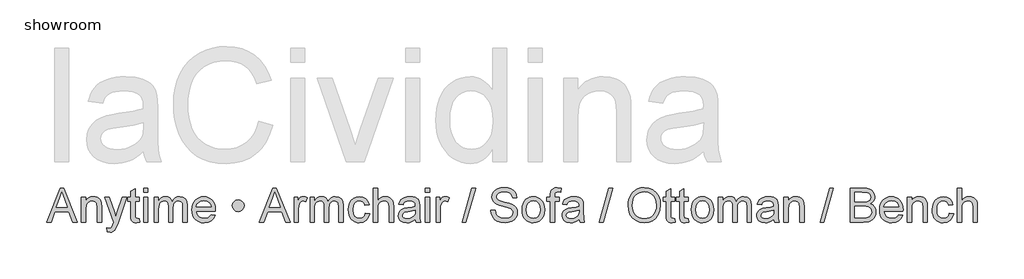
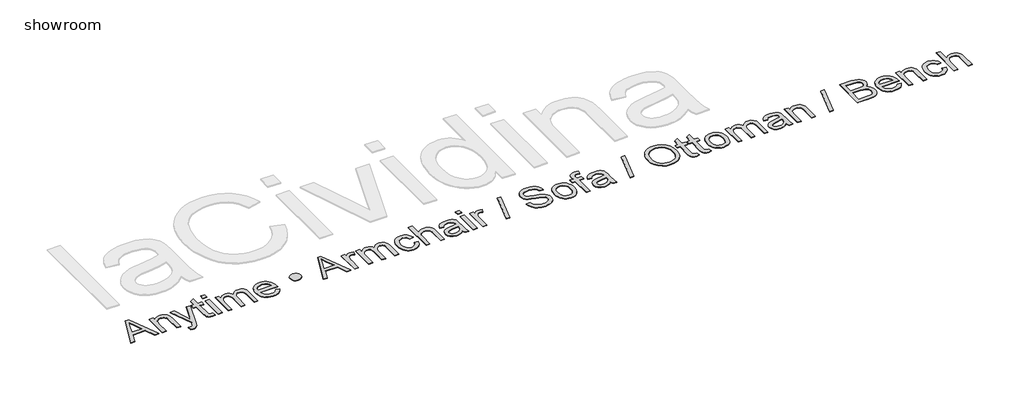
# One storey, part 2 of 2: 1 proxy.
"""IFC4 building model written with IfcOpenShell, lengths in millimetres."""

from ifc_helpers import new_model, si_unit, origin, origin_with_axes, place, context, project, spatial, polyline, outline, extrude, element, save

model = new_model("IFC4")

# Units and contexts
model_context = context("Model", 3, world=origin())
ifc_project = project(units=[si_unit("LENGTHUNIT", "METRE", prefix="MILLI")], contexts=[model_context])

# Site, building, storey
site = spatial("IfcSite", under=ifc_project)
building = spatial("IfcBuilding", under=site)
storey = spatial("IfcBuildingStorey", under=building, Name="showroom", Elevation=0.0)

# Proxy
placement = place(None, origin())
element("IfcBuildingElementProxy", 1, Name="300mm Arial", ObjectType="300mm Arial", at=placement, inside=storey, context=model_context, shape_type="SweptSolid", body=[
    extrude(outline(polyline([(-2025.45804, 4160.1020807), (-1905.1606276, 4461.4710111), (-1873.0813176, 4461.4710111), (-1752.7839051, 4160.1020807), (-1792.588737, 4160.1020807), (-1827.0960682, 4254.2798714), (-1951.2194533, 4254.2798714), (-1985.6532081, 4160.1020807), (-2025.45804, 4160.1020807)]), holes=[polyline([(-1937.3870903, 4291.9509877), (-1840.8548548, 4291.9509877), (-1868.004546, 4366.0424216), (-1889.1209726, 4423.7998948), (-1907.8829543, 4372.5171447), (-1937.3870903, 4291.9509877)])]), origin_with_axes(), (0.0, 0.0, 1.0), 5.0),
    extrude(outline(polyline([(-1717.2465044, 4160.1020807), (-1717.2465044, 4381.419889), (-1679.5753881, 4381.419889), (-1679.5753881, 4350.5178014), (-1666.4879861, 4366.0976039), (-1650.7702279, 4377.2260342), (-1632.4221134, 4383.9030924), (-1611.4436426, 4386.1287785), (-1592.8747989, 4384.3353538), (-1575.8694537, 4378.9550796), (-1561.6876028, 4370.6593406), (-1551.589242, 4360.1195214), (-1540.2952647, 4332.4180072), (-1538.308702, 4295.9976897), (-1538.308702, 4160.1020807), (-1575.9798183, 4160.1020807), (-1575.9798183, 4290.9209182), (-1580.3208258, 4324.2510269), (-1586.3264994, 4334.1746437), (-1595.661505, 4341.8725745), (-1607.6268669, 4346.8113903), (-1621.5236093, 4348.4576622), (-1643.5873319, 4344.7604482), (-1662.3952989, 4333.668806), (-1669.9115879, 4324.6143104), (-1675.2803658, 4312.2396798), (-1679.5753881, 4277.5300135), (-1679.5753881, 4160.1020807), (-1717.2465044, 4160.1020807)])), origin_with_axes(), (0.0, 0.0, 1.0), 5.0),
    extrude(outline(polyline([(-1486.510917, 4075.342069), (-1491.2198066, 4111.6152337), (-1472.0899428, 4108.3042958), (-1454.2108779, 4112.4613623), (-1443.2479944, 4124.0496451), (-1432.9472985, 4151.7879476), (-1430.0042426, 4160.9114211), (-1510.0553647, 4381.419889), (-1470.3241093, 4381.419889), (-1427.870527, 4258.5473026), (-1413.0816708, 4209.398268), (-1398.2928146, 4252.8083435), (-1354.66201, 4381.419889), (-1315.2250601, 4381.419889), (-1392.2595499, 4154.8045799), (-1412.2723304, 4105.6555454), (-1422.517844, 4089.9653783), (-1434.1245209, 4079.0944653), (-1447.6073961, 4072.7485009), (-1463.4815041, 4070.6331794), (-1486.510917, 4075.342069)])), origin_with_axes(), (0.0, 0.0, 1.0), 5.0),
    extrude(outline(polyline([(-1203.9775447, 4191.5192031), (-1199.2686552, 4158.9984347), (-1227.448416, 4155.3931911), (-1245.5298161, 4156.9566896), (-1259.0126912, 4161.6471851), (-1268.5408349, 4168.8760663), (-1274.7580406, 4178.054722), (-1278.1793432, 4193.8184655), (-1279.3197774, 4220.8026099), (-1279.3197774, 4343.7487727), (-1307.5731146, 4343.7487727), (-1307.5731146, 4381.419889), (-1279.3197774, 4381.419889), (-1279.3197774, 4435.2042367), (-1241.6486611, 4457.3507328), (-1241.6486611, 4381.419889), (-1203.9775447, 4381.419889), (-1203.9775447, 4343.7487727), (-1241.6486611, 4343.7487727), (-1241.6486611, 4221.9062559), (-1239.6620983, 4202.4820865), (-1233.2241634, 4195.6026932), (-1220.3850817, 4193.0643074), (-1203.9775447, 4191.5192031)])), origin_with_axes(), (0.0, 0.0, 1.0), 5.0),
    extrude(outline(polyline([(-1166.3064284, 4423.7998948), (-1166.3064284, 4461.4710111), (-1128.6353121, 4461.4710111), (-1128.6353121, 4423.7998948), (-1166.3064284, 4423.7998948)])), origin_with_axes(), (0.0, 0.0, 1.0), 5.0),
    extrude(outline(polyline([(-1166.3064284, 4160.1020807), (-1166.3064284, 4381.419889), (-1128.6353121, 4381.419889), (-1128.6353121, 4160.1020807), (-1166.3064284, 4160.1020807)])), origin_with_axes(), (0.0, 0.0, 1.0), 5.0),
    extrude(outline(polyline([(-1072.1286377, 4160.1020807), (-1072.1286377, 4381.419889), (-1034.4575214, 4381.419889), (-1034.4575214, 4344.9995714), (-1023.1267559, 4361.7290052), (-1008.5586289, 4374.8348013), (-991.249781, 4383.3052842), (-971.696853, 4386.1287785), (-950.7459734, 4383.2501019), (-933.9521603, 4374.6140721), (-921.4073842, 4360.7909061), (-913.2036158, 4342.3508211), (-899.4724203, 4361.5036775), (-883.8098443, 4375.1842892), (-866.2158879, 4383.3926562), (-846.690551, 4386.1287785), (-818.3728345, 4381.5762388), (-797.4311519, 4367.9186197), (-784.4909027, 4344.7880393), (-780.1774863, 4311.8166155), (-780.1774863, 4160.1020807), (-817.8486026, 4160.1020807), (-817.8486026, 4295.6298077), (-821.3434816, 4327.0837183), (-826.2547062, 4335.7565363), (-833.9986222, 4342.5715503), (-843.9590272, 4346.9861342), (-855.5197189, 4348.4576622), (-875.9279726, 4344.6868718), (-892.5654358, 4333.3745004), (-903.6294868, 4313.747996), (-907.3175038, 4285.0348062), (-907.3175038, 4160.1020807), (-944.9886201, 4160.1020807), (-944.9886201, 4299.8236624), (-947.168321, 4321.12403), (-953.7074234, 4336.3175564), (-965.2129328, 4345.4226357), (-982.2918545, 4348.4576622), (-996.8047992, 4346.4343112), (-1010.1773097, 4340.3642583), (-1021.2137695, 4330.3946562), (-1028.7185622, 4316.6726578), (-1033.0227816, 4297.6347646), (-1034.4575214, 4271.717478), (-1034.4575214, 4160.1020807), (-1072.1286377, 4160.1020807)])), origin_with_axes(), (0.0, 0.0, 1.0), 5.0),
    extrude(outline(polyline([(-568.7189155, 4226.0265342), (-531.7835632, 4221.3176447), (-545.0916943, 4193.4873717), (-566.3276825, 4172.6836449), (-595.0132811, 4159.7158046), (-630.6702435, 4155.3931911), (-654.0445457, 4157.257893), (-674.8712652, 4162.8519986), (-693.1504018, 4172.1755079), (-708.8819556, 4185.2284209), (-721.5324977, 4201.6474542), (-730.5685993, 4221.0693243), (-735.9902602, 4243.4940312), (-737.7974805, 4268.9215748), (-735.9718661, 4295.2113419), (-730.4950229, 4318.3833091), (-721.3669508, 4338.4374764), (-708.58765, 4355.3738437), (-692.8974829, 4368.8291277), (-675.0368121, 4378.4400448), (-655.0056374, 4384.2065951), (-632.803959, 4386.1287785), (-611.3173513, 4384.2111936), (-591.8862841, 4378.4584389), (-574.5107576, 4368.8705144), (-559.1907718, 4355.4474201), (-546.6850832, 4338.547841), (-537.7524485, 4318.5304619), (-532.3928677, 4295.3952829), (-530.6063408, 4269.142304), (-530.82707, 4258.988761), (-700.1263642, 4258.988761), (-693.6056558, 4230.790606), (-678.4581146, 4210.0604556), (-656.5967271, 4197.3133445), (-629.9344795, 4193.0643074), (-609.8849107, 4195.0324761), (-592.9991272, 4200.9369821), (-579.2771287, 4211.1457075), (-568.7189155, 4226.0265342)]), holes=[polyline([(-700.1263642, 4296.6598773), (-568.2774571, 4296.6598773), (-573.3726227, 4316.5622932), (-583.3606189, 4330.7993264), (-605.323174, 4344.0430783), (-632.9511118, 4348.4576622), (-658.3441665, 4344.9351921), (-679.3410314, 4334.3677818), (-693.9367496, 4317.8958655), (-700.1263642, 4296.6598773)])]), origin_with_axes(), (0.0, 0.0, 1.0), 5.0),
    extrude(outline(polyline([(-379.9218755, 4306.1512328), (-376.1142969, 4326.0444516), (-364.6915609, 4342.7554913), (-347.9529302, 4354.0954538), (-328.197667, 4357.8754413), (-308.3320393, 4354.0954538), (-291.5566203, 4342.7554913), (-280.1338844, 4326.0444516), (-276.3263057, 4306.1512328), (-280.1338844, 4286.285605), (-291.5566203, 4269.510186), (-308.3320393, 4258.0874501), (-328.197667, 4254.2798714), (-347.9529302, 4258.0874501), (-364.6915609, 4269.510186), (-376.1142969, 4286.285605), (-379.9218755, 4306.1512328)])), origin_with_axes(), (0.0, 0.0, 1.0), 5.0),
    extrude(outline(polyline([(-141.9022247, 4160.1020807), (-21.6048122, 4461.4710111), (10.4744977, 4461.4710111), (130.7719102, 4160.1020807), (90.9670783, 4160.1020807), (56.4597471, 4254.2798714), (-67.663638, 4254.2798714), (-102.0973928, 4160.1020807), (-141.9022247, 4160.1020807)]), holes=[polyline([(-53.831275, 4291.9509877), (42.7009605, 4291.9509877), (15.5512693, 4366.0424216), (-5.5651573, 4423.7998948), (-24.327139, 4372.5171447), (-53.831275, 4291.9509877)])]), origin_with_axes(), (0.0, 0.0, 1.0), 5.0),
    extrude(outline(polyline([(166.3093109, 4160.1020807), (166.3093109, 4381.419889), (199.2715377, 4381.419889), (199.2715377, 4348.6783914), (211.4484317, 4367.6611024), (222.6688326, 4378.844715), (233.9260216, 4384.3077626), (246.2132802, 4386.1287785), (264.975262, 4383.2225107), (284.0315493, 4374.5037075), (271.4499851, 4340.7321403), (258.2062333, 4346.5262817), (244.9624815, 4348.4576622), (233.7144895, 4346.5998581), (223.6621139, 4341.0264459), (215.5411189, 4332.1604898), (210.0872683, 4320.4250542), (205.5071375, 4299.382204), (203.9804272, 4276.4263675), (203.9804272, 4160.1020807), (166.3093109, 4160.1020807)])), origin_with_axes(), (0.0, 0.0, 1.0), 5.0),
    extrude(outline(polyline([(307.575997, 4160.1020807), (307.575997, 4381.419889), (345.2471133, 4381.419889), (345.2471133, 4344.9995714), (356.5778788, 4361.7290052), (371.1460058, 4374.8348013), (388.4548537, 4383.3052842), (408.0077817, 4386.1287785), (428.9586613, 4383.2501019), (445.7524744, 4374.6140721), (458.2972505, 4360.7909061), (466.501019, 4342.3508211), (480.2322144, 4361.5036775), (495.8947904, 4375.1842892), (513.4887468, 4383.3926562), (533.0140837, 4386.1287785), (561.3318003, 4381.5762388), (582.2734828, 4367.9186197), (595.213732, 4344.7880393), (599.5271484, 4311.8166155), (599.5271484, 4160.1020807), (561.8560321, 4160.1020807), (561.8560321, 4295.6298077), (558.3611531, 4327.0837183), (553.4499285, 4335.7565363), (545.7060125, 4342.5715503), (535.7456075, 4346.9861342), (524.1849158, 4348.4576622), (503.7766621, 4344.6868718), (487.1391989, 4333.3745004), (476.0751479, 4313.747996), (472.3871309, 4285.0348062), (472.3871309, 4160.1020807), (434.7160146, 4160.1020807), (434.7160146, 4299.8236624), (432.5363137, 4321.12403), (425.9972113, 4336.3175564), (414.4917019, 4345.4226357), (397.4127803, 4348.4576622), (382.8998355, 4346.4343112), (369.527325, 4340.3642583), (358.4908652, 4330.3946562), (350.9860725, 4316.6726578), (346.6818531, 4297.6347646), (345.2471133, 4271.717478), (345.2471133, 4160.1020807), (307.575997, 4160.1020807)])), origin_with_axes(), (0.0, 0.0, 1.0), 5.0),
    extrude(outline(polyline([(797.300509, 4240.1532028), (834.9716253, 4235.4443133), (824.4685944, 4201.9394606), (804.7317253, 4176.6199823), (777.6188223, 4160.6998889), (744.9876893, 4155.3931911), (723.8597665, 4157.2440974), (704.916143, 4162.7968163), (688.1568188, 4172.0513477), (673.581794, 4185.0076917), (661.7842783, 4201.4221265), (653.3574814, 4221.0509302), (648.3014032, 4243.8941029), (646.6160438, 4269.9516444), (649.4947204, 4303.4748912), (658.1307502, 4332.5283718), (672.6620891, 4355.9900461), (693.2266926, 4372.7378739), (717.828801, 4382.7810524), (744.4726545, 4386.1287785), (776.3036441, 4381.5302536), (801.7518812, 4367.7346787), (820.0080252, 4345.477818), (830.2627358, 4315.4954354), (792.5916195, 4310.7865459), (785.7582114, 4327.221674), (775.1172247, 4339.0030949), (761.2572705, 4346.0940204), (744.7669601, 4348.4576622), (720.4223691, 4343.803955), (701.0993673, 4329.8428332), (688.4902119, 4305.820139), (684.2871601, 4270.981714), (688.3982414, 4235.6742395), (700.7314853, 4211.5687718), (719.7049992, 4197.6904235), (743.7368905, 4193.0643074), (763.2438333, 4195.9521811), (779.2375031, 4204.6158021), (790.8717712, 4219.2758996), (797.300509, 4240.1532028)])), origin_with_axes(), (0.0, 0.0, 1.0), 5.0),
    extrude(outline(polyline([(867.9338521, 4160.1020807), (867.9338521, 4461.4710111), (905.6049684, 4461.4710111), (905.6049684, 4350.6649542), (919.4419299, 4366.1803773), (934.9803457, 4377.2628224), (952.2202157, 4383.9122895), (971.1615399, 4386.1287785), (993.9150413, 4383.7099544), (1013.4679694, 4376.453482), (1028.8638309, 4364.9295785), (1039.1461326, 4349.708461), (1044.9402741, 4328.7943696), (1046.8716545, 4300.1915444), (1046.8716545, 4160.1020807), (1009.2005382, 4160.1020807), (1009.2005382, 4296.2919953), (1006.2023, 4319.8732312), (997.2075852, 4336.0232508), (982.7130346, 4345.3490593), (963.2152888, 4348.4576622), (947.2951955, 4346.3607348), (932.3499894, 4340.0699527), (919.9707603, 4330.1923211), (911.7485977, 4317.3348454), (907.1408757, 4300.2467267), (905.6049684, 4277.6771663), (905.6049684, 4160.1020807), (867.9338521, 4160.1020807)])), origin_with_axes(), (0.0, 0.0, 1.0), 5.0),
    extrude(outline(polyline([(1239.9361256, 4188.3554179), (1221.937499, 4172.9227682), (1203.4054435, 4162.8244074), (1183.9168948, 4157.2509952), (1163.0487886, 4155.3931911), (1131.5672869, 4159.8629574), (1108.3447359, 4173.2722561), (1094.0249293, 4193.6345245), (1089.2516604, 4218.9631999), (1091.0542822, 4234.5797906), (1096.4621475, 4248.7616415), (1104.8038717, 4260.9017474), (1115.4080702, 4270.3931028), (1141.7852093, 4282.7539379), (1174.3795541, 4288.4193206), (1212.896799, 4294.3790089), (1239.7153964, 4301.3687668), (1239.9361256, 4309.7564763), (1237.3425575, 4326.5686835), (1229.5618533, 4337.5683551), (1212.161035, 4345.7353354), (1187.9176115, 4348.4576622), (1165.4768098, 4346.6458434), (1149.8050368, 4341.2103869), (1139.1180648, 4331.1580114), (1131.6316662, 4315.4954354), (1093.9605499, 4320.204325), (1100.4996524, 4340.8057167), (1110.2577223, 4356.9925245), (1124.1452676, 4369.3717536), (1143.0727963, 4378.5504094), (1166.2217708, 4384.2341862), (1192.7736538, 4386.1287785), (1218.2402849, 4384.4549154), (1238.4278094, 4379.4333262), (1253.648927, 4371.8825482), (1264.2163373, 4362.621119), (1271.2244893, 4351.1707919), (1275.7678319, 4337.0533204), (1277.6072419, 4304.0910936), (1277.6072419, 4257.2229274), (1279.5202283, 4191.7767205), (1287.025021, 4160.1020807), (1249.3539047, 4160.1020807), (1239.9361256, 4188.3554179)]), holes=[polyline([(1239.9361256, 4263.6976505), (1179.16202, 4252.1461559), (1146.7516162, 4246.0393147), (1132.0731246, 4236.1065009), (1126.9227767, 4221.6119503), (1129.7278769, 4210.4099435), (1138.1431775, 4201.2312877), (1151.9847376, 4195.1060525), (1171.0686161, 4193.0643074), (1191.3021259, 4195.3175847), (1209.1811908, 4202.0774163), (1223.6757414, 4212.0378213), (1233.7557081, 4223.8928186), (1238.2254743, 4236.1065009), (1239.7153964, 4253.0290727), (1239.9361256, 4263.6976505)])]), origin_with_axes(), (0.0, 0.0, 1.0), 5.0),
    extrude(outline(polyline([(1329.4050268, 4160.1020807), (1329.4050268, 4381.419889), (1367.0761431, 4381.419889), (1367.0761431, 4160.1020807), (1329.4050268, 4160.1020807)])), origin_with_axes(), (0.0, 0.0, 1.0), 5.0),
    extrude(outline(polyline([(1329.4050268, 4423.7998948), (1329.4050268, 4461.4710111), (1367.0761431, 4461.4710111), (1367.0761431, 4423.7998948), (1329.4050268, 4423.7998948)])), origin_with_axes(), (0.0, 0.0, 1.0), 5.0),
    extrude(outline(polyline([(1423.5828176, 4160.1020807), (1423.5828176, 4381.419889), (1456.5450444, 4381.419889), (1456.5450444, 4348.6783914), (1468.7219384, 4367.6611024), (1479.9423393, 4378.844715), (1491.1995283, 4384.3077626), (1503.486787, 4386.1287785), (1522.2487687, 4383.2225107), (1541.3050561, 4374.5037075), (1528.7234918, 4340.7321403), (1515.47974, 4346.5262817), (1502.2359882, 4348.4576622), (1490.9879962, 4346.5998581), (1480.9356207, 4341.0264459), (1472.8146256, 4332.1604898), (1467.360775, 4320.4250542), (1462.7806442, 4299.382204), (1461.2539339, 4276.4263675), (1461.2539339, 4160.1020807), (1423.5828176, 4160.1020807)])), origin_with_axes(), (0.0, 0.0, 1.0), 5.0),
    extrude(outline(polyline([(1654.318405, 4160.1020807), (1739.0784167, 4461.4710111), (1773.070713, 4461.4710111), (1688.3107013, 4160.1020807), (1654.318405, 4160.1020807)])), origin_with_axes(), (0.0, 0.0, 1.0), 5.0),
    extrude(outline(polyline([(1908.59844, 4263.6976505), (1946.2695564, 4263.6976505), (1950.5921698, 4242.7927561), (1958.4096622, 4225.989746), (1970.6049503, 4212.6540237), (1988.060951, 4202.1509927), (2009.3981067, 4195.3359788), (2033.23686, 4193.0643074), (2054.2245278, 4194.7841558), (2072.6002335, 4199.9437007), (2087.4902573, 4208.110681), (2098.0208794, 4218.8528353), (2104.2840703, 4231.1860792), (2106.3718007, 4244.1263284), (2104.8083022, 4256.7354838), (2100.1178067, 4267.6339879), (2090.5896631, 4276.9322053), (2074.5132199, 4284.7405006), (2019.6620144, 4299.1246866), (1983.6555641, 4308.6436333), (1960.6169542, 4317.7027274), (1941.8641695, 4330.3762621), (1928.5744324, 4345.7353354), (1920.6557724, 4363.4488535), (1918.0162191, 4383.1857225), (1921.2811718, 4405.2494452), (1931.07603, 4425.8232458), (1947.1432761, 4443.2608524), (1969.2253929, 4455.915993), (1995.7312906, 4463.6139237), (2025.0698797, 4466.1799007), (2056.8548841, 4463.4943621), (2084.6667629, 4455.4377464), (2107.5122348, 4442.1756005), (2124.3980184, 4423.8734712), (2135.0849904, 4401.6717928), (2139.3340274, 4376.7109994), (2101.6629111, 4376.7109994), (2094.7467296, 4399.1885893), (2080.3257554, 4415.4121853), (2057.7929832, 4425.2346346), (2026.5414077, 4428.5087844), (1994.5540682, 4425.2714228), (1972.6099072, 4415.5593381), (1959.9179784, 4401.2671226), (1955.6873354, 4384.2893685), (1958.6855737, 4369.813212), (1967.6802885, 4358.1697469), (1988.9438678, 4347.7586864), (2029.1901581, 4337.1268968), (2070.7240353, 4327.028536), (2095.8503756, 4318.2177622), (2117.3254871, 4304.5509461), (2132.3074813, 4287.6835566), (2141.109058, 4267.7995348), (2144.042917, 4245.0828216), (2140.6675997, 4221.8602706), (2130.5416477, 4200.0172771), (2114.0789285, 4181.2185072), (2091.693309, 4167.1286268), (2064.773544, 4158.32705), (2034.708388, 4155.3931911), (1997.8006268, 4158.5569763), (1967.4227711, 4168.0483318), (1943.2253328, 4183.9040458), (1924.8588242, 4206.1609065), (1913.0682063, 4233.2738095), (1908.59844, 4263.6976505)])), origin_with_axes(), (0.0, 0.0, 1.0), 5.0),
    extrude(outline(polyline([(2186.4229228, 4270.7609848), (2188.4600694, 4299.4235908), (2194.571509, 4324.1222682), (2204.7572417, 4344.8570172), (2219.0172676, 4361.6278376), (2233.3738624, 4372.3469993), (2249.2203794, 4380.0035433), (2266.5568184, 4384.5974697), (2285.3831795, 4386.1287785), (2306.166213, 4384.2640766), (2324.9580851, 4378.6699711), (2341.758796, 4369.3464617), (2356.5683456, 4356.2935487), (2368.6555684, 4339.9526903), (2377.289299, 4320.765345), (2382.4695373, 4298.7315128), (2384.1962834, 4273.8511936), (2381.1428629, 4235.7938012), (2371.9826012, 4206.8230941), (2356.9822128, 4185.1272534), (2336.4084122, 4168.8944604), (2311.9718507, 4158.7685084), (2285.3831795, 4155.3931911), (2264.2966434, 4157.2509952), (2245.3300273, 4162.8244074), (2228.4833312, 4172.1134278), (2213.756555, 4185.1180563), (2201.7980909, 4201.6175638), (2193.2563309, 4221.3912211), (2188.1312748, 4244.4390281), (2186.4229228, 4270.7609848)]), holes=[polyline([(2224.0940391, 4270.8345612), (2228.4534408, 4236.7410973), (2241.5316457, 4212.4516886), (2261.2133324, 4197.9111527), (2285.3831795, 4193.0643074), (2309.442662, 4197.9387439), (2329.0875605, 4212.5620532), (2342.1657655, 4237.1733587), (2346.5251671, 4272.0117836), (2342.1381743, 4305.1119661), (2328.9771959, 4329.0702811), (2309.3047062, 4343.6108169), (2285.3831795, 4348.4576622), (2261.2133324, 4343.629211), (2241.5316457, 4329.1438575), (2228.4534408, 4304.909631), (2224.0940391, 4270.8345612)])]), origin_with_axes(), (0.0, 0.0, 1.0), 5.0),
    extrude(outline(polyline([(2435.9940683, 4160.1020807), (2435.9940683, 4343.7487727), (2403.0318416, 4343.7487727), (2403.0318416, 4381.419889), (2435.9940683, 4381.419889), (2435.9940683, 4403.7135379), (2439.9671939, 4435.1306603), (2447.545563, 4447.6570422), (2459.2442104, 4457.571462), (2475.6149592, 4464.027791), (2497.2096323, 4466.1799007), (2531.5698107, 4462.0596223), (2526.0515808, 4426.7429508), (2504.346543, 4428.5087844), (2490.0267364, 4426.9452859), (2480.6181543, 4422.2547904), (2475.4034271, 4413.2968639), (2473.6651846, 4398.9310719), (2473.6651846, 4381.419889), (2516.0451905, 4381.419889), (2516.0451905, 4343.7487727), (2473.6651846, 4343.7487727), (2473.6651846, 4160.1020807), (2435.9940683, 4160.1020807)])), origin_with_axes(), (0.0, 0.0, 1.0), 5.0),
    extrude(outline(polyline([(2690.2741034, 4188.3554179), (2672.2754768, 4172.9227682), (2653.7434213, 4162.8244074), (2634.2548726, 4157.2509952), (2613.3867664, 4155.3931911), (2581.9052647, 4159.8629574), (2558.6827137, 4173.2722561), (2544.3629071, 4193.6345245), (2539.5896382, 4218.9631999), (2541.39226, 4234.5797906), (2546.8001253, 4248.7616415), (2555.1418495, 4260.9017474), (2565.746048, 4270.3931028), (2592.1231871, 4282.7539379), (2624.7175319, 4288.4193206), (2663.2347768, 4294.3790089), (2690.0533742, 4301.3687668), (2690.2741034, 4309.7564763), (2687.6805353, 4326.5686835), (2679.8998311, 4337.5683551), (2662.4990128, 4345.7353354), (2638.2555893, 4348.4576622), (2615.8147876, 4346.6458434), (2600.1430146, 4341.2103869), (2589.4560426, 4331.1580114), (2581.969644, 4315.4954354), (2544.2985277, 4320.204325), (2550.8376302, 4340.8057167), (2560.5957001, 4356.9925245), (2574.4832454, 4369.3717536), (2593.4107741, 4378.5504094), (2616.5597486, 4384.2341862), (2643.1116316, 4386.1287785), (2668.5782627, 4384.4549154), (2688.7657872, 4379.4333262), (2703.9869048, 4371.8825482), (2714.5543151, 4362.621119), (2721.5624671, 4351.1707919), (2726.1058097, 4337.0533204), (2727.9452197, 4304.0910936), (2727.9452197, 4257.2229274), (2729.8582061, 4191.7767205), (2737.3629988, 4160.1020807), (2699.6918825, 4160.1020807), (2690.2741034, 4188.3554179)]), holes=[polyline([(2690.2741034, 4263.6976505), (2629.4999978, 4252.1461559), (2597.089594, 4246.0393147), (2582.4111024, 4236.1065009), (2577.2607545, 4221.6119503), (2580.0658547, 4210.4099435), (2588.4811553, 4201.2312877), (2602.3227154, 4195.1060525), (2621.4065939, 4193.0643074), (2641.6401036, 4195.3175847), (2659.5191686, 4202.0774163), (2674.0137192, 4212.0378213), (2684.0936859, 4223.8928186), (2688.5634521, 4236.1065009), (2690.0533742, 4253.0290727), (2690.2741034, 4263.6976505)])]), origin_with_axes(), (0.0, 0.0, 1.0), 5.0),
    extrude(outline(polyline([(2869.2119059, 4160.1020807), (2953.9719175, 4461.4710111), (2987.9642139, 4461.4710111), (2903.2042022, 4160.1020807), (2869.2119059, 4160.1020807)])), origin_with_axes(), (0.0, 0.0, 1.0), 5.0),
    extrude(outline(polyline([(3123.4919409, 4306.8134203), (3126.0027355, 4342.1622816), (3133.5351194, 4373.4552438), (3146.0890925, 4400.692307), (3163.6646548, 4423.8734712), (3185.2087441, 4442.3825341), (3209.6682983, 4455.6032933), (3237.0433173, 4463.5357488), (3267.333801, 4466.1799007), (3306.8627214, 4461.2134937), (3342.3081516, 4446.3142729), (3371.7387113, 4422.5307019), (3393.2230198, 4390.9112444), (3406.356407, 4352.9826107), (3410.7342028, 4310.2715111), (3406.1264808, 4266.9901944), (3392.3033148, 4228.5281318), (3370.02806, 4196.853492), (3340.0640715, 4173.9344437), (3304.9221439, 4160.0285043), (3267.1130718, 4155.3931911), (3226.9771462, 4160.5159479), (3191.3293808, 4175.8842183), (3161.9723976, 4200.1092476), (3140.7088183, 4231.8022815), (3127.7961603, 4268.2685843), (3123.4919409, 4306.8134203)]), holes=[polyline([(3161.1630572, 4306.4455384), (3163.0461532, 4281.4709494), (3168.6954411, 4259.3014607), (3178.1109209, 4239.9370721), (3191.2925926, 4223.3777838), (3207.3161528, 4210.1156379), (3225.2572978, 4200.6426765), (3245.1160278, 4194.9588997), (3266.8923426, 4193.0643074), (3289.041138, 4194.9772938), (3309.1343927, 4200.7162529), (3327.1721068, 4210.2811848), (3343.1542802, 4223.6720894), (3356.239383, 4240.5808656), (3365.5858849, 4260.6994123), (3371.1937861, 4284.0277293), (3373.0630864, 4310.5658167), (3369.8625131, 4343.9143196), (3360.260793, 4372.7378739), (3344.5062466, 4396.3099127), (3322.8471941, 4413.9038691), (3296.7183754, 4424.8575556), (3267.5545302, 4428.5087844), (3246.5346727, 4426.7498486), (3227.0323285, 4421.4730412), (3209.0474974, 4412.6783622), (3192.5801796, 4400.3658117), (3178.8351886, 4383.9421799), (3169.0173378, 4362.8142571), (3163.1266274, 4336.9820432), (3161.1630572, 4306.4455384)])]), origin_with_axes(), (0.0, 0.0, 1.0), 5.0),
    extrude(outline(polyline([(3537.8742203, 4191.5192031), (3542.5831098, 4158.9984347), (3514.403349, 4155.3931911), (3496.3219489, 4156.9566896), (3482.8390738, 4161.6471851), (3473.3109301, 4168.8760663), (3467.0937244, 4178.054722), (3463.6724219, 4193.8184655), (3462.5319877, 4220.8026099), (3462.5319877, 4343.7487727), (3434.2786504, 4343.7487727), (3434.2786504, 4381.419889), (3462.5319877, 4381.419889), (3462.5319877, 4435.2042367), (3500.203104, 4457.3507328), (3500.203104, 4381.419889), (3537.8742203, 4381.419889), (3537.8742203, 4343.7487727), (3500.203104, 4343.7487727), (3500.203104, 4221.9062559), (3502.1896668, 4202.4820865), (3508.6276017, 4195.6026932), (3521.4666833, 4193.0643074), (3537.8742203, 4191.5192031)])), origin_with_axes(), (0.0, 0.0, 1.0), 5.0),
    extrude(outline(polyline([(3655.5964587, 4191.5192031), (3660.3053483, 4158.9984347), (3632.1255875, 4155.3931911), (3614.0441874, 4156.9566896), (3600.5613123, 4161.6471851), (3591.0331686, 4168.8760663), (3584.8159629, 4178.054722), (3581.3946603, 4193.8184655), (3580.2542261, 4220.8026099), (3580.2542261, 4343.7487727), (3552.0008889, 4343.7487727), (3552.0008889, 4381.419889), (3580.2542261, 4381.419889), (3580.2542261, 4435.2042367), (3617.9253424, 4457.3507328), (3617.9253424, 4381.419889), (3655.5964587, 4381.419889), (3655.5964587, 4343.7487727), (3617.9253424, 4343.7487727), (3617.9253424, 4221.9062559), (3619.9119052, 4202.4820865), (3626.3498401, 4195.6026932), (3639.1889218, 4193.0643074), (3655.5964587, 4191.5192031)])), origin_with_axes(), (0.0, 0.0, 1.0), 5.0),
    extrude(outline(polyline([(3683.849796, 4270.7609848), (3685.8869425, 4299.4235908), (3691.9983822, 4324.1222682), (3702.1841149, 4344.8570172), (3716.4441407, 4361.6278376), (3730.8007356, 4372.3469993), (3746.6472525, 4380.0035433), (3763.9836916, 4384.5974697), (3782.8100527, 4386.1287785), (3803.5930861, 4384.2640766), (3822.3849583, 4378.6699711), (3839.1856692, 4369.3464617), (3853.9952187, 4356.2935487), (3866.0824415, 4339.9526903), (3874.7161721, 4320.765345), (3879.8964105, 4298.7315128), (3881.6231566, 4273.8511936), (3878.569736, 4235.7938012), (3869.4094743, 4206.8230941), (3854.409086, 4185.1272534), (3833.8352854, 4168.8944604), (3809.3987239, 4158.7685084), (3782.8100527, 4155.3931911), (3761.7235166, 4157.2509952), (3742.7569004, 4162.8244074), (3725.9102043, 4172.1134278), (3711.1834282, 4185.1180563), (3699.2249641, 4201.6175638), (3690.683204, 4221.3912211), (3685.558148, 4244.4390281), (3683.849796, 4270.7609848)]), holes=[polyline([(3721.5209123, 4270.8345612), (3725.8803139, 4236.7410973), (3738.9585188, 4212.4516886), (3758.6402056, 4197.9111527), (3782.8100527, 4193.0643074), (3806.8695352, 4197.9387439), (3826.5144337, 4212.5620532), (3839.5926386, 4237.1733587), (3843.9520403, 4272.0117836), (3839.5650475, 4305.1119661), (3826.4040691, 4329.0702811), (3806.7315794, 4343.6108169), (3782.8100527, 4348.4576622), (3758.6402056, 4343.629211), (3738.9585188, 4329.1438575), (3725.8803139, 4304.909631), (3721.5209123, 4270.8345612)])]), origin_with_axes(), (0.0, 0.0, 1.0), 5.0),
    extrude(outline(polyline([(3924.0031624, 4160.1020807), (3924.0031624, 4381.419889), (3961.6742787, 4381.419889), (3961.6742787, 4344.9995714), (3973.0050442, 4361.7290052), (3987.5731712, 4374.8348013), (4004.8820191, 4383.3052842), (4024.4349471, 4386.1287785), (4045.3858267, 4383.2501019), (4062.1796398, 4374.6140721), (4074.7244158, 4360.7909061), (4082.9281843, 4342.3508211), (4096.6593798, 4361.5036775), (4112.3219558, 4375.1842892), (4129.9159122, 4383.3926562), (4149.4412491, 4386.1287785), (4177.7589656, 4381.5762388), (4198.7006482, 4367.9186197), (4211.6408974, 4344.7880393), (4215.9543138, 4311.8166155), (4215.9543138, 4160.1020807), (4178.2831975, 4160.1020807), (4178.2831975, 4295.6298077), (4174.7883185, 4327.0837183), (4169.8770939, 4335.7565363), (4162.1331779, 4342.5715503), (4152.1727729, 4346.9861342), (4140.6120812, 4348.4576622), (4120.2038275, 4344.6868718), (4103.5663643, 4333.3745004), (4092.5023133, 4313.747996), (4088.8142963, 4285.0348062), (4088.8142963, 4160.1020807), (4051.14318, 4160.1020807), (4051.14318, 4299.8236624), (4048.9634791, 4321.12403), (4042.4243767, 4336.3175564), (4030.9188673, 4345.4226357), (4013.8399456, 4348.4576622), (3999.3270009, 4346.4343112), (3985.9544904, 4340.3642583), (3974.9180306, 4330.3946562), (3967.4132379, 4316.6726578), (3963.1090185, 4297.6347646), (3961.6742787, 4271.717478), (3961.6742787, 4160.1020807), (3924.0031624, 4160.1020807)])), origin_with_axes(), (0.0, 0.0, 1.0), 5.0),
    extrude(outline(polyline([(4413.7276744, 4188.3554179), (4395.7290478, 4172.9227682), (4377.1969923, 4162.8244074), (4357.7084436, 4157.2509952), (4336.8403374, 4155.3931911), (4305.3588357, 4159.8629574), (4282.1362847, 4173.2722561), (4267.8164781, 4193.6345245), (4263.0432092, 4218.9631999), (4264.845831, 4234.5797906), (4270.2536963, 4248.7616415), (4278.5954205, 4260.9017474), (4289.199619, 4270.3931028), (4315.5767581, 4282.7539379), (4348.1711029, 4288.4193206), (4386.6883478, 4294.3790089), (4413.5069452, 4301.3687668), (4413.7276744, 4309.7564763), (4411.1341063, 4326.5686835), (4403.3534021, 4337.5683551), (4385.9525838, 4345.7353354), (4361.7091603, 4348.4576622), (4339.2683586, 4346.6458434), (4323.5965856, 4341.2103869), (4312.9096136, 4331.1580114), (4305.423215, 4315.4954354), (4267.7520987, 4320.204325), (4274.2912012, 4340.8057167), (4284.0492711, 4356.9925245), (4297.9368164, 4369.3717536), (4316.8643451, 4378.5504094), (4340.0133196, 4384.2341862), (4366.5652026, 4386.1287785), (4392.0318337, 4384.4549154), (4412.2193582, 4379.4333262), (4427.4404758, 4371.8825482), (4438.0078861, 4362.621119), (4445.0160381, 4351.1707919), (4449.5593807, 4337.0533204), (4451.3987907, 4304.0910936), (4451.3987907, 4257.2229274), (4453.3117771, 4191.7767205), (4460.8165698, 4160.1020807), (4423.1454535, 4160.1020807), (4413.7276744, 4188.3554179)]), holes=[polyline([(4413.7276744, 4263.6976505), (4352.9535688, 4252.1461559), (4320.543165, 4246.0393147), (4305.8646734, 4236.1065009), (4300.7143255, 4221.6119503), (4303.5194257, 4210.4099435), (4311.9347263, 4201.2312877), (4325.7762864, 4195.1060525), (4344.8601649, 4193.0643074), (4365.0936746, 4195.3175847), (4382.9727396, 4202.0774163), (4397.4672902, 4212.0378213), (4407.5472569, 4223.8928186), (4412.0170231, 4236.1065009), (4413.5069452, 4253.0290727), (4413.7276744, 4263.6976505)])]), origin_with_axes(), (0.0, 0.0, 1.0), 5.0),
    extrude(outline(polyline([(4503.1965756, 4160.1020807), (4503.1965756, 4381.419889), (4540.8676919, 4381.419889), (4540.8676919, 4350.5178014), (4553.9550939, 4366.0976039), (4569.6728522, 4377.2260342), (4588.0209667, 4383.9030924), (4608.9994374, 4386.1287785), (4627.5682811, 4384.3353538), (4644.5736264, 4378.9550796), (4658.7554773, 4370.6593406), (4668.8538381, 4360.1195214), (4680.1478153, 4332.4180072), (4682.1343781, 4295.9976897), (4682.1343781, 4160.1020807), (4644.4632618, 4160.1020807), (4644.4632618, 4290.9209182), (4640.1222542, 4324.2510269), (4634.1165807, 4334.1746437), (4624.781575, 4341.8725745), (4612.8162131, 4346.8113903), (4598.9194708, 4348.4576622), (4576.8557481, 4344.7604482), (4558.0477811, 4333.668806), (4550.5314921, 4324.6143104), (4545.1627142, 4312.2396798), (4540.8676919, 4277.5300135), (4540.8676919, 4160.1020807), (4503.1965756, 4160.1020807)])), origin_with_axes(), (0.0, 0.0, 1.0), 5.0),
    extrude(outline(polyline([(4823.4010642, 4160.1020807), (4908.1610759, 4461.4710111), (4942.1533723, 4461.4710111), (4857.3933606, 4160.1020807), (4823.4010642, 4160.1020807)])), origin_with_axes(), (0.0, 0.0, 1.0), 5.0),
    extrude(outline(polyline([(5091.8077679, 4160.1020807), (5091.8077679, 4461.4710111), (5206.8076796, 4461.4710111), (5238.4363341, 4459.2545221), (5263.1304131, 4452.605055), (5282.0579417, 4441.357063), (5296.3869454, 4425.3449992), (5305.4092514, 4406.509441), (5308.4166867, 4386.7909661), (5305.887498, 4368.6451867), (5298.2999318, 4351.5846592), (5285.5988059, 4336.6578472), (5267.728938, 4324.9132145), (5289.0752908, 4313.7663901), (5304.8482313, 4296.8070301), (5314.5879071, 4275.1571747), (5317.8344657, 4249.9388639), (5315.6179767, 4228.9236049), (5308.9685097, 4209.4350562), (5299.0448928, 4192.8619723), (5287.0059546, 4180.5931078), (5272.2630836, 4171.7087576), (5254.2276688, 4165.2892168), (5205.9247628, 4160.1020807), (5091.8077679, 4160.1020807)]), holes=[polyline([(5129.4788842, 4339.0398831), (5198.2728173, 4339.0398831), (5238.4455312, 4342.2772447), (5252.5078205, 4347.859854), (5262.6153783, 4356.2199723), (5268.7130223, 4367.228841), (5270.7455704, 4380.7577014), (5268.8509781, 4393.8910886), (5263.1672013, 4405.3322187), (5253.9517573, 4414.2625541), (5241.4621636, 4419.8635575), (5193.048893, 4423.7998948), (5129.4788842, 4423.7998948), (5129.4788842, 4339.0398831)]), polyline([(5129.4788842, 4197.773197), (5206.7341032, 4197.773197), (5234.6931348, 4199.244725), (5258.3479471, 4207.4484935), (5274.0197201, 4224.1871242), (5278.6274421, 4236.0145304), (5280.1633494, 4249.5709819), (5278.3607277, 4265.3163313), (5272.9528623, 4278.8543887), (5263.5074921, 4289.4401931), (5249.5923556, 4296.3287835), (5229.8830778, 4300.108771), (5203.0552833, 4301.3687668), (5129.4788842, 4301.3687668), (5129.4788842, 4197.773197)])]), origin_with_axes(), (0.0, 0.0, 1.0), 5.0),
    extrude(outline(polyline([(5519.8752575, 4226.0265342), (5556.8106098, 4221.3176447), (5543.5024786, 4193.4873717), (5522.2664905, 4172.6836449), (5493.5808919, 4159.7158046), (5457.9239295, 4155.3931911), (5434.5496272, 4157.257893), (5413.7229078, 4162.8519986), (5395.4437712, 4172.1755079), (5379.7122173, 4185.2284209), (5367.0616752, 4201.6474542), (5358.0255737, 4221.0693243), (5352.6039128, 4243.4940312), (5350.7966925, 4268.9215748), (5352.6223069, 4295.2113419), (5358.0991501, 4318.3833091), (5367.2272221, 4338.4374764), (5380.0065229, 4355.3738437), (5395.69669, 4368.8291277), (5413.5573609, 4378.4400448), (5433.5885355, 4384.2065951), (5455.7902139, 4386.1287785), (5477.2768217, 4384.2111936), (5496.7078889, 4378.4584389), (5514.0834153, 4368.8705144), (5529.4034012, 4355.4474201), (5541.9090897, 4338.547841), (5550.8417244, 4318.5304619), (5556.2013053, 4295.3952829), (5557.9878322, 4269.142304), (5557.767103, 4258.988761), (5388.4678088, 4258.988761), (5394.9885172, 4230.790606), (5410.1360583, 4210.0604556), (5431.9974459, 4197.3133445), (5458.6596935, 4193.0643074), (5478.7092622, 4195.0324761), (5495.5950458, 4200.9369821), (5509.3170442, 4211.1457075), (5519.8752575, 4226.0265342)]), holes=[polyline([(5388.4678088, 4296.6598773), (5520.3167159, 4296.6598773), (5515.2215503, 4316.5622932), (5505.2335541, 4330.7993264), (5483.270999, 4344.0430783), (5455.6430611, 4348.4576622), (5430.2500064, 4344.9351921), (5409.2531416, 4334.3677818), (5394.6574234, 4317.8958655), (5388.4678088, 4296.6598773)])]), origin_with_axes(), (0.0, 0.0, 1.0), 5.0),
    extrude(outline(polyline([(5595.6589485, 4160.1020807), (5595.6589485, 4381.419889), (5633.3300648, 4381.419889), (5633.3300648, 4350.5178014), (5646.4174668, 4366.0976039), (5662.135225, 4377.2260342), (5680.4833395, 4383.9030924), (5701.4618103, 4386.1287785), (5720.030654, 4384.3353538), (5737.0359993, 4378.9550796), (5751.2178502, 4370.6593406), (5761.3162109, 4360.1195214), (5772.6101882, 4332.4180072), (5774.596751, 4295.9976897), (5774.596751, 4160.1020807), (5736.9256347, 4160.1020807), (5736.9256347, 4290.9209182), (5732.5846271, 4324.2510269), (5726.5789535, 4334.1746437), (5717.2439479, 4341.8725745), (5705.278586, 4346.8113903), (5691.3818437, 4348.4576622), (5669.318121, 4344.7604482), (5650.510154, 4333.668806), (5642.993865, 4324.6143104), (5637.6250871, 4312.2396798), (5633.3300648, 4277.5300135), (5633.3300648, 4160.1020807), (5595.6589485, 4160.1020807)])), origin_with_axes(), (0.0, 0.0, 1.0), 5.0),
    extrude(outline(polyline([(5967.661222, 4240.1532028), (6005.3323383, 4235.4443133), (5994.8293074, 4201.9394606), (5975.0924383, 4176.6199823), (5947.9795353, 4160.6998889), (5915.3484023, 4155.3931911), (5894.2204795, 4157.2440974), (5875.276856, 4162.7968163), (5858.5175318, 4172.0513477), (5843.9425071, 4185.0076917), (5832.1449913, 4201.4221265), (5823.7181944, 4221.0509302), (5818.6621162, 4243.8941029), (5816.9767568, 4269.9516444), (5819.8554334, 4303.4748912), (5828.4914633, 4332.5283718), (5843.0228021, 4355.9900461), (5863.5874056, 4372.7378739), (5888.189514, 4382.7810524), (5914.8333675, 4386.1287785), (5946.6643572, 4381.5302536), (5972.1125942, 4367.7346787), (5990.3687382, 4345.477818), (6000.6234488, 4315.4954354), (5962.9523325, 4310.7865459), (5956.1189244, 4327.221674), (5945.4779377, 4339.0030949), (5931.6179836, 4346.0940204), (5915.1276731, 4348.4576622), (5890.7830821, 4343.803955), (5871.4600803, 4329.8428332), (5858.8509249, 4305.820139), (5854.6478731, 4270.981714), (5858.7589544, 4235.6742395), (5871.0921983, 4211.5687718), (5890.0657122, 4197.6904235), (5914.0976035, 4193.0643074), (5933.6045463, 4195.9521811), (5949.5982161, 4204.6158021), (5961.2324842, 4219.2758996), (5967.661222, 4240.1532028)])), origin_with_axes(), (0.0, 0.0, 1.0), 5.0),
    extrude(outline(polyline([(6038.2945651, 4160.1020807), (6038.2945651, 4461.4710111), (6075.9656814, 4461.4710111), (6075.9656814, 4350.6649542), (6089.802643, 4366.1803773), (6105.3410587, 4377.2628224), (6122.5809287, 4383.9122895), (6141.5222529, 4386.1287785), (6164.2757544, 4383.7099544), (6183.8286824, 4376.453482), (6199.2245439, 4364.9295785), (6209.5068457, 4349.708461), (6215.3009871, 4328.7943696), (6217.2323676, 4300.1915444), (6217.2323676, 4160.1020807), (6179.5612513, 4160.1020807), (6179.5612513, 4296.2919953), (6176.563013, 4319.8732312), (6167.5682982, 4336.0232508), (6153.0737476, 4345.3490593), (6133.5760019, 4348.4576622), (6117.6559085, 4346.3607348), (6102.7107025, 4340.0699527), (6090.3314733, 4330.1923211), (6082.1093107, 4317.3348454), (6077.5015887, 4300.2467267), (6075.9656814, 4277.6771663), (6075.9656814, 4160.1020807), (6038.2945651, 4160.1020807)])), origin_with_axes(), (0.0, 0.0, 1.0), 5.0),
])

save(model, "model.ifc")
